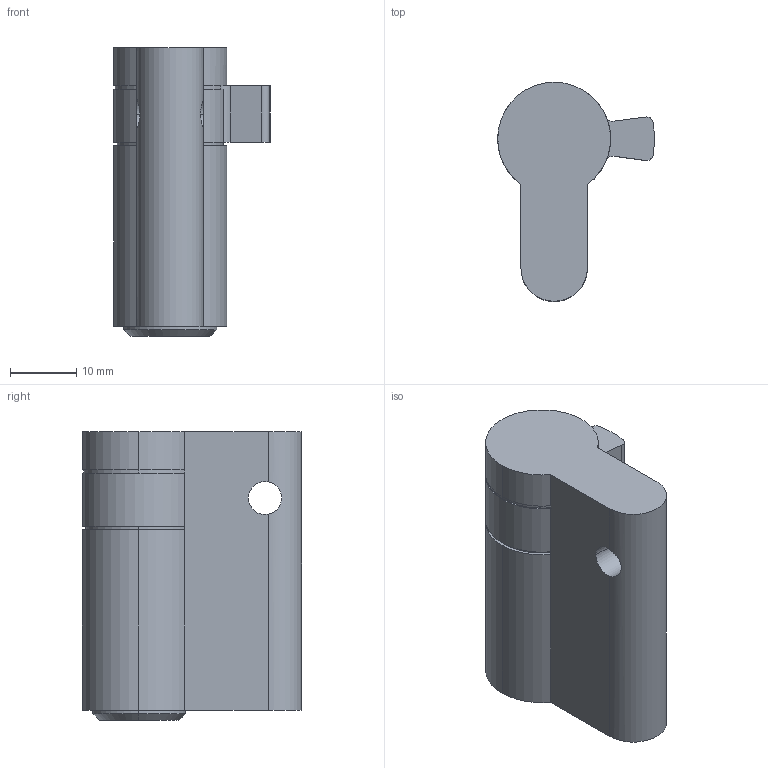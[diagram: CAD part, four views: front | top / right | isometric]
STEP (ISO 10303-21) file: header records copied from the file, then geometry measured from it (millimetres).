
FILE_DESCRIPTION (( 'STEP AP214' ), '1' );
FILE_NAME ('TPL-H-EU-006-L 29Oct2024.STEP', '2024-10-29T22:10:19', ( '' ), ( '' ), 'SwSTEP 2.0', 'SolidWorks 2023', '' );
FILE_SCHEMA (( 'AUTOMOTIVE_DESIGN' ));
Length unit declared in the file: millimetre
Products named in the file (1): TPL-H-EU-006-L 29Oct2024
Bounding box: 23.58 x 33 x 43.5 mm (x, y, z)
Volume: 16028.5 mm3; surface area: 5143.4 mm2
Topology: 1 solids, 1 shells, 45 faces, 124 edges, 78 vertices
Faces by surface type: cylinder 26, plane 16, cone 3
Entity records: 1540 total; most frequent: CARTESIAN_POINT 318, DIRECTION 271, ORIENTED_EDGE 248, EDGE_CURVE 124, AXIS2_PLACEMENT_3D 107, VERTEX_POINT 78, CIRCLE 61, LINE 57
